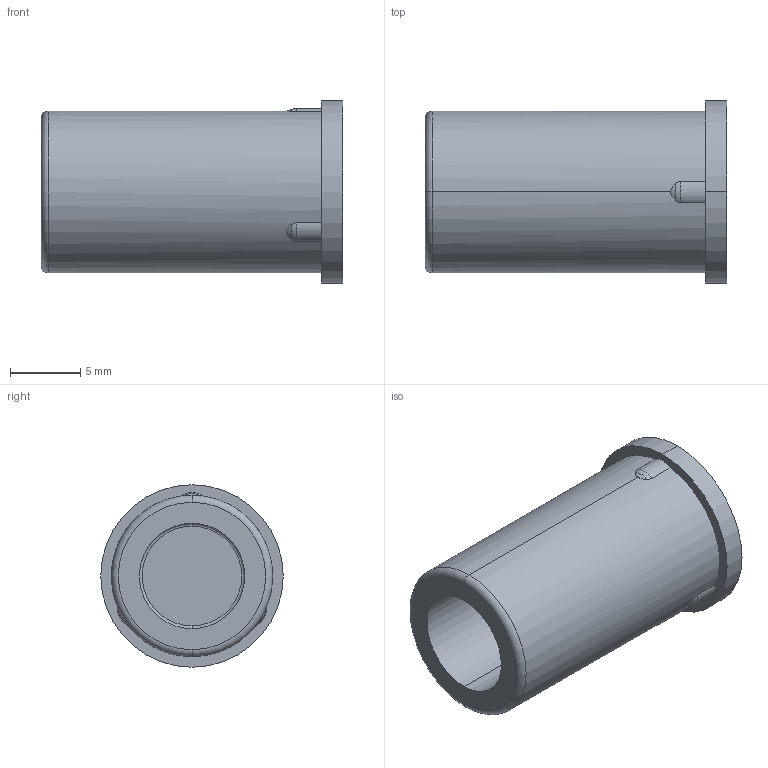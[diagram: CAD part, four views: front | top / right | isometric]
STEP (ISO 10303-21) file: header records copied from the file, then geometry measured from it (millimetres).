
FILE_DESCRIPTION(('Creo Elements/Direct Modeling STEP Export'),'2;1');
FILE_NAME('H20-0026-CL901-00_BB-115S.stp','2021-09-07T11:22:02',(''),(''),'Creo Elements/Direct Modeling STEP processor for AP214 (Solid Model)','Creo Elements/Direct Modeling 20.3B 05-Dec-2020 (C) Parametric Technology GmbH','');
FILE_SCHEMA(('AUTOMOTIVE_DESIGN { 1 0 10303 214 1 1 1 1 }'));
Length unit declared in the file: millimetre
Products named in the file (2): BB-115S
Assembly tree (1 placements, depth 2):
  BB-115S
    BB-115S
Bounding box: 21.5 x 13 x 13 mm (x, y, z)
Volume: 1392.5 mm3; surface area: 1510.8 mm2
Topology: 1 solids, 1 shells, 27 faces, 126 edges, 107 vertices
Faces by surface type: cylinder 9, plane 8, torus 7, cone 3
Entity records: 1465 total; most frequent: CARTESIAN_POINT 390, ORIENTED_EDGE 252, DIRECTION 176, EDGE_CURVE 126, VERTEX_POINT 107, VECTOR 82, LINE 82, AXIS2_PLACEMENT_3D 47
